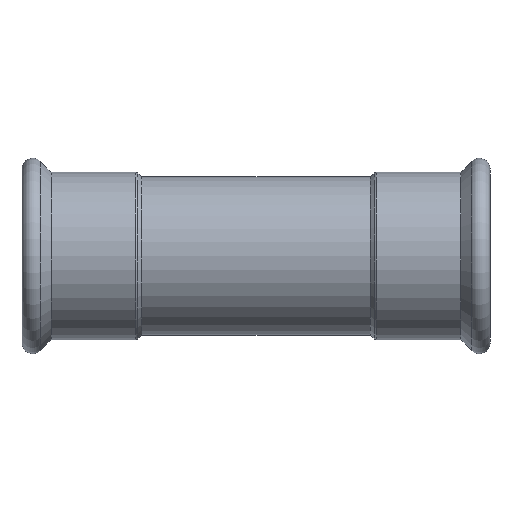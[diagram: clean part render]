
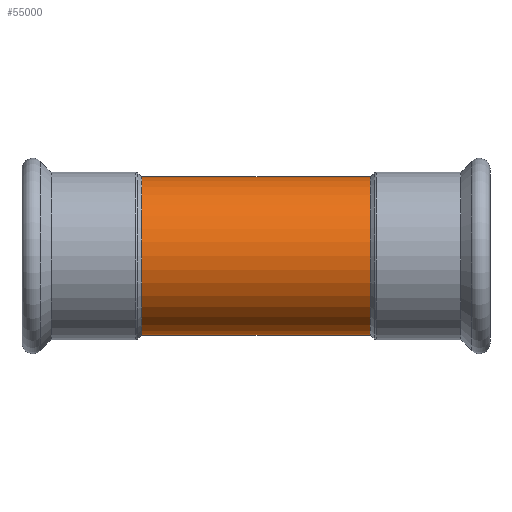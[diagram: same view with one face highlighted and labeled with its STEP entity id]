
A CAD part, top view. The second image highlights one B-rep face of the part: STEP entity #55000.
In plain terms, the highlighted cylindrical face has radius 44.45 mm (diameter 88.9 mm), a partial arc.
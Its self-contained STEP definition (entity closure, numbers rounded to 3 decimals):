
#13060=CARTESIAN_POINT('',(-340.306,-8.327,
0.));
#13070=DIRECTION('',(1.,0.,0.));
#13080=DIRECTION('',(0.,0.,1.));
#13090=AXIS2_PLACEMENT_3D('',#13060,#13070,#13080);
#13100=CYLINDRICAL_SURFACE('',#13090,44.45);
#20140=CARTESIAN_POINT('',(-340.306,-8.327,-44.45));
#20150=DIRECTION('',(1.,0.,0.));
#20160=VECTOR('',#20150,1.);
#20170=LINE('',#20140,#20160);
#20180=CARTESIAN_POINT('',(-468.306,-8.327,-44.45));
#20190=VERTEX_POINT('',#20180);
#20200=CARTESIAN_POINT('',(-340.306,-8.327,-44.45));
#20210=VERTEX_POINT('',#20200);
#20220=EDGE_CURVE('',#20190,#20210,#20170,.T.);
#20240=CARTESIAN_POINT('',(-340.306,-8.327,
0.));
#20250=DIRECTION('',(1.,0.,0.));
#20260=DIRECTION('',(0.,0.,-1.));
#20270=AXIS2_PLACEMENT_3D('',#20240,#20250,#20260);
#20280=CIRCLE('',#20270,44.45);
#20290=CARTESIAN_POINT('',(-340.306,-8.327,44.45));
#20300=VERTEX_POINT('',#20290);
#20330=CARTESIAN_POINT('',(-340.306,-8.327,44.45));
#20340=DIRECTION('',(1.,0.,0.));
#20350=VECTOR('',#20340,1.);
#20360=LINE('',#20330,#20350);
#20370=CARTESIAN_POINT('',(-468.306,-8.327,44.45));
#20380=VERTEX_POINT('',#20370);
#20390=EDGE_CURVE('',#20380,#20300,#20360,.T.);
#20410=CARTESIAN_POINT('',(-468.306,-8.327,
0.));
#20420=DIRECTION('',(1.,0.,0.));
#20430=DIRECTION('',(0.,0.,1.));
#20440=AXIS2_PLACEMENT_3D('',#20410,#20420,#20430);
#20450=CIRCLE('',#20440,44.45);
#54630=EDGE_CURVE('',#20300,#20210,#20280,.T.);
#54730=EDGE_CURVE('',#20380,#20190,#20450,.T.);
#54940=ORIENTED_EDGE('',*,*,#54630,.F.);
#54950=ORIENTED_EDGE('',*,*,#20220,.T.);
#54960=ORIENTED_EDGE('',*,*,#54730,.T.);
#54970=ORIENTED_EDGE('',*,*,#20390,.F.);
#54980=EDGE_LOOP('',(#54970,#54960,#54950,#54940));
#54990=FACE_OUTER_BOUND('',#54980,.T.);
#55000=ADVANCED_FACE('',(#54990),#13100,.T.);
